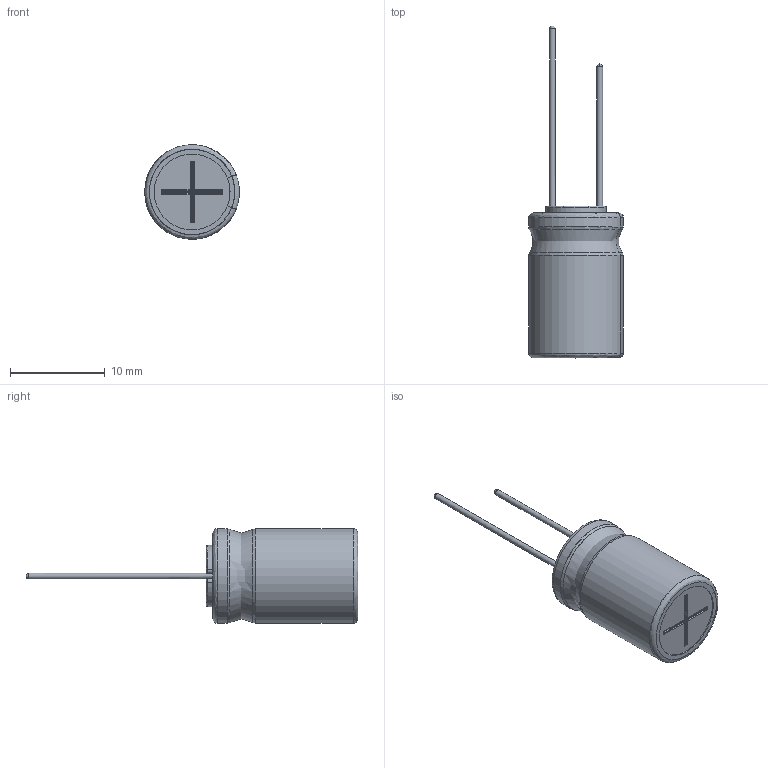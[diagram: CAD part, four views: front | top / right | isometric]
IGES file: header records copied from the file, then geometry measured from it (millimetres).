
Start section: JAMA-IS VERSION  1.0
Bounding box: 9.99 x 35 x 10 mm (x, y, z)
Surface area: 1735.9 mm2 (no closed solid volume)
Topology: 0 solids, 0 shells, 115 faces, 1315 edges, 1296 vertices
Faces by surface type: bspline 115
